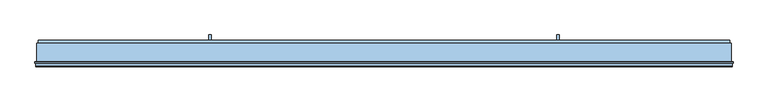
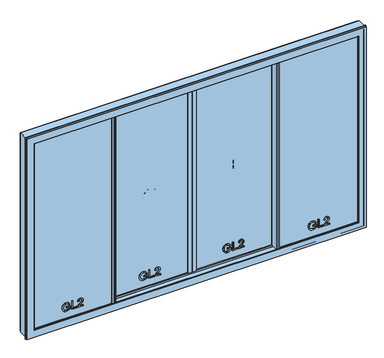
"""IFC4 building model written with IfcOpenShell, lengths in millimetres: window geometry, XL_XHS-9E_Metaglas : XL_XHS-9E_Metaglas."""

from ifc_helpers import new_model, si_unit, point, frame, frame_2d, origin, place, context, project, spatial, polyline, circle_curve, trimmed, segment, composite_curve, outline, extrude, faceted_brep, source, transform, mapped, element, save


def window_d65d8cc0(model_context):
    return source(origin(), model_context, "Body", "SolidModel", [
        extrude(outline(polyline([(979.25, -2.0486721), (1916.0, -2.0486721), (1916.0, -5.0486721), (979.25, -5.0486721), (979.25, -2.0486721)])), frame((0.0, 0.0, 85.6), z_axis=(0.0, 0.0, 1.0), x_axis=(1.0, 0.0, 0.0)), (0.0, 0.0, 1.0), 2330.4),
        extrude(outline(polyline([(979.25, 0.9513279), (1916.0, 0.9513279), (1916.0, -2.0486721), (979.25, -2.0486721), (979.25, 0.9513279)])), frame((0.0, 0.0, 85.6), z_axis=(0.0, 0.0, 1.0), x_axis=(1.0, 0.0, 0.0)), (0.0, 0.0, 1.0), 2330.4),
        extrude(outline(polyline([(979.25, -25.0486721), (1916.0, -25.0486721), (1916.0, -28.0486721), (979.25, -28.0486721), (979.25, -25.0486721)])), frame((0.0, 0.0, 85.6), z_axis=(0.0, 0.0, 1.0), x_axis=(1.0, 0.0, 0.0)), (0.0, 0.0, 1.0), 2330.4),
        extrude(outline(polyline([(979.25, -22.0486721), (1916.0, -22.0486721), (1916.0, -25.0486721), (979.25, -25.0486721), (979.25, -22.0486721)])), frame((0.0, 0.0, 85.6), z_axis=(0.0, 0.0, 1.0), x_axis=(1.0, 0.0, 0.0)), (0.0, 0.0, 1.0), 2330.4),
        extrude(outline(polyline([(224.3483029, 1374.6372122), (224.3483029, 1402.8905494), (206.1994578, 1402.8905494), (199.3200645, 1390.1740951), (196.0949657, 1372.9940059), (200.3746595, 1353.8518794), (213.4712586, 1340.1176183), (235.3602373, 1335.396466), (255.0787122, 1339.3205406), (264.7540087, 1345.783001), (271.8663939, 1356.721359), (274.576458, 1372.7978022), (272.0625977, 1386.9122081), (265.3671454, 1396.6978691), (253.754337, 1402.4245655), (257.0162241, 1414.0005856), (273.6322275, 1406.4099538), (283.5650414, 1392.6389045), (287.1334967, 1372.9940059), (285.5945237, 1358.9041255), (280.9776047, 1346.5555532), (273.1938348, 1336.4173385), (262.1543093, 1328.9585311), (248.9933309, 1324.3692032), (234.8452025, 1322.8394272), (220.7982416, 1324.3753346), (208.1369696, 1328.9830566), (197.5818221, 1336.6043452), (189.8532345, 1347.1809526), (185.1167538, 1359.9127353), (183.5379269, 1373.99955), (187.5110524, 1395.2999176), (199.3568527, 1415.4475882), (236.9053417, 1415.4475882), (236.9053417, 1374.6372122), (224.3483029, 1374.6372122)])), frame((0.0, -38.0486721, 0.0), z_axis=(0.0, 1.0, 0.0), x_axis=(0.0, 0.0, 1.0)), (0.0, 0.0, 1.0), 10.0),
        extrude(outline(polyline([(185.1075567, 1435.8527762), (185.1075567, 1498.63797), (197.6645955, 1498.63797), (197.6645955, 1448.4098149), (285.5638669, 1448.4098149), (285.5638669, 1435.8527762), (185.1075567, 1435.8527762)])), frame((0.0, -38.0486721, 0.0), z_axis=(0.0, 1.0, 0.0), x_axis=(0.0, 0.0, 1.0)), (0.0, 0.0, 1.0), 10.0),
        extrude(outline(polyline([(197.6645955, 1572.4105728), (197.6645955, 1523.0898599), (204.0534795, 1528.7552427), (216.1322717, 1543.2007423), (233.3368863, 1561.1901719), (245.6486704, 1568.6091255), (257.5557843, 1570.8409429), (268.506405, 1568.7716067), (277.5195139, 1562.563598), (283.5527787, 1552.8055281), (285.5638669, 1540.0860081), (283.7551137, 1527.4584586), (278.3288543, 1517.6819946), (269.4567669, 1511.0999726), (257.3105297, 1508.0557491), (255.7408998, 1520.6127878), (268.4205659, 1525.8980258), (273.0068281, 1539.816228), (268.3102013, 1553.1703444), (256.7954949, 1558.2839041), (242.5707244, 1552.8760388), (221.6505016, 1531.2077893), (207.0946373, 1515.4747026), (193.7650464, 1507.8350199), (185.1075567, 1506.4861192), (185.1075567, 1572.4105728), (197.6645955, 1572.4105728)])), frame((0.0, -38.0486721, 0.0), z_axis=(0.0, 1.0, 0.0), x_axis=(0.0, 0.0, 1.0)), (0.0, 0.0, 1.0), 10.0),
        extrude(outline(polyline([(2416.0, 1916.0), (2416.0, 979.25), (85.6, 979.25), (85.6, 1916.0), (2416.0, 1916.0)]), holes=[polyline([(98.6, 1903.0), (98.6, 992.25), (2403.0, 992.25), (2403.0, 1903.0), (98.6, 1903.0)])]), frame((0.0, -22.0486721, 0.0), z_axis=(0.0, 1.0, 0.0), x_axis=(0.0, 0.0, 1.0)), (0.0, 0.0, 1.0), 17.0),
        extrude(outline(polyline([(979.25, -22.0486721), (1916.0, -22.0486721), (1916.0, -28.0486721), (979.25, -28.0486721), (979.25, -22.0486721)])), frame((0.0, 0.0, 85.6), z_axis=(0.0, 0.0, 1.0), x_axis=(1.0, 0.0, 0.0)), (0.0, 0.0, 1.0), 2330.4),
        extrude(outline(polyline([(30.25, 82.8), (953.75, 82.8), (953.75, 79.8), (30.25, 79.8), (30.25, 82.8)])), frame((0.0, 0.0, 85.6), z_axis=(0.0, 0.0, 1.0), x_axis=(1.0, 0.0, 0.0)), (0.0, 0.0, 1.0), 2330.4),
        extrude(outline(polyline([(30.25, 85.8), (953.75, 85.8), (953.75, 82.8), (30.25, 82.8), (30.25, 85.8)])), frame((0.0, 0.0, 85.6), z_axis=(0.0, 0.0, 1.0), x_axis=(1.0, 0.0, 0.0)), (0.0, 0.0, 1.0), 2330.4),
        extrude(outline(polyline([(30.25, 59.8), (953.75, 59.8), (953.75, 56.8), (30.25, 56.8), (30.25, 59.8)])), frame((0.0, 0.0, 85.6), z_axis=(0.0, 0.0, 1.0), x_axis=(1.0, 0.0, 0.0)), (0.0, 0.0, 1.0), 2330.4),
        extrude(outline(polyline([(30.25, 62.8), (953.75, 62.8), (953.75, 59.8), (30.25, 59.8), (30.25, 62.8)])), frame((0.0, 0.0, 85.6), z_axis=(0.0, 0.0, 1.0), x_axis=(1.0, 0.0, 0.0)), (0.0, 0.0, 1.0), 2330.4),
        extrude(outline(polyline([(224.3483029, 419.0122122), (224.3483029, 447.2655494), (206.1994578, 447.2655494), (199.3200645, 434.5490951), (196.0949657, 417.3690059), (200.3746595, 398.2268794), (213.4712586, 384.4926183), (235.3602373, 379.771466), (255.0787122, 383.6955406), (264.7540087, 390.158001), (271.8663939, 401.096359), (274.576458, 417.1728022), (272.0625977, 431.2872081), (265.3671454, 441.0728691), (253.754337, 446.7995655), (257.0162241, 458.3755856), (273.6322275, 450.7849538), (283.5650414, 437.0139045), (287.1334967, 417.3690059), (285.5945237, 403.2791255), (280.9776047, 390.9305532), (273.1938348, 380.7923385), (262.1543093, 373.3335311), (248.9933309, 368.7442032), (234.8452025, 367.2144272), (220.7982416, 368.7503346), (208.1369696, 373.3580566), (197.5818221, 380.9793452), (189.8532345, 391.5559526), (185.1167538, 404.2877353), (183.5379269, 418.37455), (187.5110524, 439.6749176), (199.3568527, 459.8225882), (236.9053417, 459.8225882), (236.9053417, 419.0122122), (224.3483029, 419.0122122)])), frame((0.0, 46.8, 0.0), z_axis=(0.0, 1.0, 0.0), x_axis=(0.0, 0.0, 1.0)), (0.0, 0.0, 1.0), 10.0),
        extrude(outline(polyline([(185.1075567, 480.2277762), (185.1075567, 543.01297), (197.6645955, 543.01297), (197.6645955, 492.7848149), (285.5638669, 492.7848149), (285.5638669, 480.2277762), (185.1075567, 480.2277762)])), frame((0.0, 46.8, 0.0), z_axis=(0.0, 1.0, 0.0), x_axis=(0.0, 0.0, 1.0)), (0.0, 0.0, 1.0), 10.0),
        extrude(outline(polyline([(197.6645955, 616.7855728), (197.6645955, 567.4648599), (204.0534795, 573.1302427), (216.1322717, 587.5757423), (233.3368863, 605.5651719), (245.6486704, 612.9841255), (257.5557843, 615.2159429), (268.506405, 613.1466067), (277.5195139, 606.938598), (283.5527787, 597.1805281), (285.5638669, 584.4610081), (283.7551137, 571.8334586), (278.3288543, 562.0569946), (269.4567669, 555.4749726), (257.3105297, 552.4307491), (255.7408998, 564.9877878), (268.4205659, 570.2730258), (273.0068281, 584.191228), (268.3102013, 597.5453444), (256.7954949, 602.6589041), (242.5707244, 597.2510388), (221.6505016, 575.5827893), (207.0946373, 559.8497026), (193.7650464, 552.2100199), (185.1075567, 550.8611192), (185.1075567, 616.7855728), (197.6645955, 616.7855728)])), frame((0.0, 46.8, 0.0), z_axis=(0.0, 1.0, 0.0), x_axis=(0.0, 0.0, 1.0)), (0.0, 0.0, 1.0), 10.0),
        extrude(outline(polyline([(2416.0, 953.75), (2416.0, 30.25), (85.6, 30.25), (85.6, 953.75), (2416.0, 953.75)]), holes=[polyline([(98.6, 940.75), (98.6, 43.25), (2403.0, 43.25), (2403.0, 940.75), (98.6, 940.75)])]), frame((0.0, 62.8, 0.0), z_axis=(0.0, 1.0, 0.0), x_axis=(0.0, 0.0, 1.0)), (0.0, 0.0, 1.0), 17.0),
        extrude(outline(polyline([(30.25, 62.8), (953.75, 62.8), (953.75, 56.8), (30.25, 56.8), (30.25, 62.8)])), frame((0.0, 0.0, 85.6), z_axis=(0.0, 0.0, 1.0), x_axis=(1.0, 0.0, 0.0)), (0.0, 0.0, 1.0), 2330.4),
        extrude(outline(composite_curve([segment(trimmed(circle_curve(frame_2d((27.9933183, 1063.3761618)), 10.0), [point((17.9933183, 1063.3761618))], [point((37.9933183, 1063.3761618))], False, "CARTESIAN"), True, "CONTINUOUS"), segment(trimmed(circle_curve(frame_2d((27.9933183, 1063.3761618)), 10.0), [point((37.9933183, 1063.3761618))], [point((17.9933183, 1063.3761618))], False, "CARTESIAN"), True, "CONTINUOUS")], self_intersect=False)), frame((1004.5, 0.0, 0.0), z_axis=(1.0, 0.0, 0.0), x_axis=(0.0, 1.0, 0.0)), (0.0, 0.0, 1.0), 33.0),
        extrude(outline(polyline([(1004.5, 53.9933183), (1004.5, 67.9933183), (1017.5, 67.9933183), (1017.5, 53.9933183), (1004.5, 53.9933183)])), frame((0.0, 0.0, 1080.3761618), z_axis=(0.0, 0.0, 1.0), x_axis=(1.0, 0.0, 0.0)), (0.0, 0.0, 1.0), 65.0),
        extrude(outline(polyline([(1004.5, 132.9933183), (1004.5, 15.9933183), (990.5, 15.9933183), (990.5, 132.9933183), (1004.5, 132.9933183)])), frame((0.0, 0.0, 1037.8761618), z_axis=(0.0, 0.0, 1.0), x_axis=(1.0, 0.0, 0.0)), (0.0, 0.0, 1.0), 127.0),
        extrude(outline(polyline([(1310.8, 1427.625), (1270.8, 1427.625), (1270.8, 1387.625), (1230.8, 1387.625), (1230.8, 1427.625), (1190.8, 1427.625), (1190.8, 1467.625), (1230.8, 1467.625), (1230.8, 1507.625), (1270.8, 1507.625), (1270.8, 1467.625), (1310.8, 1467.625), (1310.8, 1427.625)])), frame((0.0, -21.2986721, 0.0), z_axis=(0.0, 1.0, 0.0), x_axis=(0.0, 0.0, 1.0)), (0.0, 0.0, 1.0), 10.0),
        extrude(outline(polyline([(1263.3, 429.7), (1238.3, 429.7), (1238.3, 492.0), (1201.4, 492.0), (1250.8, 554.3), (1300.2, 492.0), (1263.3, 492.0), (1263.3, 429.7)])), frame((0.0, 58.3, 0.0), z_axis=(0.0, 1.0, 0.0), x_axis=(0.0, 0.0, 1.0)), (0.0, 0.0, 1.0), 10.0),
        extrude(outline(composite_curve([segment(trimmed(circle_curve(frame_2d((27.9822502, 1063.3761618)), 10.0), [point((17.9822502, 1063.3761618))], [point((37.9822502, 1063.3761618))], False, "CARTESIAN"), True, "CONTINUOUS"), segment(trimmed(circle_curve(frame_2d((27.9822502, 1063.3761618)), 10.0), [point((37.9822502, 1063.3761618))], [point((17.9822502, 1063.3761618))], False, "CARTESIAN"), True, "CONTINUOUS")], self_intersect=False)), frame((-1037.5, 0.0, 0.0), z_axis=(1.0, 0.0, 0.0), x_axis=(0.0, 1.0, 0.0)), (0.0, 0.0, 1.0), 33.0),
        extrude(outline(polyline([(-1004.5, 67.9822502), (-1004.5, 53.9822502), (-1017.5, 53.9822502), (-1017.5, 67.9822502), (-1004.5, 67.9822502)])), frame((0.0, 0.0, 1080.3761618), z_axis=(0.0, 0.0, 1.0), x_axis=(1.0, 0.0, 0.0)), (0.0, 0.0, 1.0), 65.0),
        extrude(outline(polyline([(-990.5, 132.9822502), (-990.5, 15.9822502), (-1004.5, 15.9822502), (-1004.5, 132.9822502), (-990.5, 132.9822502)])), frame((0.0, 0.0, 1037.8761618), z_axis=(0.0, 0.0, 1.0), x_axis=(1.0, 0.0, 0.0)), (0.0, 0.0, 1.0), 127.0),
        extrude(outline(polyline([(-953.75, 82.8), (-30.25, 82.8), (-30.25, 79.8), (-953.75, 79.8), (-953.75, 82.8)])), frame((0.0, 0.0, 85.6), z_axis=(0.0, 0.0, 1.0), x_axis=(1.0, 0.0, 0.0)), (0.0, 0.0, 1.0), 2330.4),
        extrude(outline(polyline([(-953.75, 85.8), (-30.25, 85.8), (-30.25, 82.8), (-953.75, 82.8), (-953.75, 85.8)])), frame((0.0, 0.0, 85.6), z_axis=(0.0, 0.0, 1.0), x_axis=(1.0, 0.0, 0.0)), (0.0, 0.0, 1.0), 2330.4),
        extrude(outline(polyline([(-953.75, 59.8), (-30.25, 59.8), (-30.25, 56.8), (-953.75, 56.8), (-953.75, 59.8)])), frame((0.0, 0.0, 85.6), z_axis=(0.0, 0.0, 1.0), x_axis=(1.0, 0.0, 0.0)), (0.0, 0.0, 1.0), 2330.4),
        extrude(outline(polyline([(-953.75, 62.8), (-30.25, 62.8), (-30.25, 59.8), (-953.75, 59.8), (-953.75, 62.8)])), frame((0.0, 0.0, 85.6), z_axis=(0.0, 0.0, 1.0), x_axis=(1.0, 0.0, 0.0)), (0.0, 0.0, 1.0), 2330.4),
        extrude(outline(polyline([(224.3483029, -564.9877878), (224.3483029, -536.7344506), (206.1994578, -536.7344506), (199.3200645, -549.4509049), (196.0949657, -566.6309941), (200.3746595, -585.7731206), (213.4712586, -599.5073817), (235.3602373, -604.228534), (255.0787122, -600.3044594), (264.7540087, -593.841999), (271.8663939, -582.903641), (274.576458, -566.8271978), (272.0625977, -552.7127919), (265.3671454, -542.9271309), (253.754337, -537.2004345), (257.0162241, -525.6244144), (273.6322275, -533.2150462), (283.5650414, -546.9860955), (287.1334967, -566.6309941), (285.5945237, -580.7208745), (280.9776047, -593.0694468), (273.1938348, -603.2076615), (262.1543093, -610.6664689), (248.9933309, -615.2557968), (234.8452025, -616.7855728), (220.7982416, -615.2496654), (208.1369696, -610.6419434), (197.5818221, -603.0206548), (189.8532345, -592.4440474), (185.1167538, -579.7122647), (183.5379269, -565.62545), (187.5110524, -544.3250824), (199.3568527, -524.1774118), (236.9053417, -524.1774118), (236.9053417, -564.9877878), (224.3483029, -564.9877878)])), frame((0.0, 46.8, 0.0), z_axis=(0.0, 1.0, 0.0), x_axis=(0.0, 0.0, 1.0)), (0.0, 0.0, 1.0), 10.0),
        extrude(outline(polyline([(185.1075567, -503.7722238), (185.1075567, -440.98703), (197.6645955, -440.98703), (197.6645955, -491.2151851), (285.5638669, -491.2151851), (285.5638669, -503.7722238), (185.1075567, -503.7722238)])), frame((0.0, 46.8, 0.0), z_axis=(0.0, 1.0, 0.0), x_axis=(0.0, 0.0, 1.0)), (0.0, 0.0, 1.0), 10.0),
        extrude(outline(polyline([(197.6645955, -367.2144272), (197.6645955, -416.5351401), (204.0534795, -410.8697573), (216.1322717, -396.4242577), (233.3368863, -378.4348281), (245.6486704, -371.0158745), (257.5557843, -368.7840571), (268.506405, -370.8533933), (277.5195139, -377.061402), (283.5527787, -386.8194719), (285.5638669, -399.5389919), (283.7551137, -412.1665414), (278.3288543, -421.9430054), (269.4567669, -428.5250274), (257.3105297, -431.5692509), (255.7408998, -419.0122122), (268.4205659, -413.7269742), (273.0068281, -399.808772), (268.3102013, -386.4546556), (256.7954949, -381.3410959), (242.5707244, -386.7489612), (221.6505016, -408.4172107), (207.0946373, -424.1502974), (193.7650464, -431.7899801), (185.1075567, -433.1388808), (185.1075567, -367.2144272), (197.6645955, -367.2144272)])), frame((0.0, 46.8, 0.0), z_axis=(0.0, 1.0, 0.0), x_axis=(0.0, 0.0, 1.0)), (0.0, 0.0, 1.0), 10.0),
        extrude(outline(polyline([(2416.0, -30.25), (2416.0, -953.75), (85.6, -953.75), (85.6, -30.25), (2416.0, -30.25)]), holes=[polyline([(98.6, -43.25), (98.6, -940.75), (2403.0, -940.75), (2403.0, -43.25), (98.6, -43.25)])]), frame((0.0, 62.8, 0.0), z_axis=(0.0, 1.0, 0.0), x_axis=(0.0, 0.0, 1.0)), (0.0, 0.0, 1.0), 17.0),
        extrude(outline(polyline([(-953.75, 62.8), (-30.25, 62.8), (-30.25, 56.8), (-953.75, 56.8), (-953.75, 62.8)])), frame((0.0, 0.0, 85.6), z_axis=(0.0, 0.0, 1.0), x_axis=(1.0, 0.0, 0.0)), (0.0, 0.0, 1.0), 2330.4),
        extrude(outline(polyline([(-1916.0, -2.0486721), (-979.25, -2.0486721), (-979.25, -5.0486721), (-1916.0, -5.0486721), (-1916.0, -2.0486721)])), frame((0.0, 0.0, 85.6), z_axis=(0.0, 0.0, 1.0), x_axis=(1.0, 0.0, 0.0)), (0.0, 0.0, 1.0), 2330.4),
        extrude(outline(polyline([(-1916.0, 0.9513279), (-979.25, 0.9513279), (-979.25, -2.0486721), (-1916.0, -2.0486721), (-1916.0, 0.9513279)])), frame((0.0, 0.0, 85.6), z_axis=(0.0, 0.0, 1.0), x_axis=(1.0, 0.0, 0.0)), (0.0, 0.0, 1.0), 2330.4),
        extrude(outline(polyline([(-1916.0, -25.0486721), (-979.25, -25.0486721), (-979.25, -28.0486721), (-1916.0, -28.0486721), (-1916.0, -25.0486721)])), frame((0.0, 0.0, 85.6), z_axis=(0.0, 0.0, 1.0), x_axis=(1.0, 0.0, 0.0)), (0.0, 0.0, 1.0), 2330.4),
        extrude(outline(polyline([(-1916.0, -22.0486721), (-979.25, -22.0486721), (-979.25, -25.0486721), (-1916.0, -25.0486721), (-1916.0, -22.0486721)])), frame((0.0, 0.0, 85.6), z_axis=(0.0, 0.0, 1.0), x_axis=(1.0, 0.0, 0.0)), (0.0, 0.0, 1.0), 2330.4),
        extrude(outline(polyline([(224.3483029, -1520.6127878), (224.3483029, -1492.3594506), (206.1994578, -1492.3594506), (199.3200645, -1505.0759049), (196.0949657, -1522.2559941), (200.3746595, -1541.3981206), (213.4712586, -1555.1323817), (235.3602373, -1559.853534), (255.0787122, -1555.9294594), (264.7540087, -1549.466999), (271.8663939, -1538.528641), (274.576458, -1522.4521978), (272.0625977, -1508.3377919), (265.3671454, -1498.5521309), (253.754337, -1492.8254345), (257.0162241, -1481.2494144), (273.6322275, -1488.8400462), (283.5650414, -1502.6110955), (287.1334967, -1522.2559941), (285.5945237, -1536.3458745), (280.9776047, -1548.6944468), (273.1938348, -1558.8326615), (262.1543093, -1566.2914689), (248.9933309, -1570.8807968), (234.8452025, -1572.4105728), (220.7982416, -1570.8746654), (208.1369696, -1566.2669434), (197.5818221, -1558.6456548), (189.8532345, -1548.0690474), (185.1167538, -1535.3372647), (183.5379269, -1521.25045), (187.5110524, -1499.9500824), (199.3568527, -1479.8024118), (236.9053417, -1479.8024118), (236.9053417, -1520.6127878), (224.3483029, -1520.6127878)])), frame((0.0, -38.0486721, 0.0), z_axis=(0.0, 1.0, 0.0), x_axis=(0.0, 0.0, 1.0)), (0.0, 0.0, 1.0), 10.0),
        extrude(outline(polyline([(185.1075567, -1459.3972238), (185.1075567, -1396.61203), (197.6645955, -1396.61203), (197.6645955, -1446.8401851), (285.5638669, -1446.8401851), (285.5638669, -1459.3972238), (185.1075567, -1459.3972238)])), frame((0.0, -38.0486721, 0.0), z_axis=(0.0, 1.0, 0.0), x_axis=(0.0, 0.0, 1.0)), (0.0, 0.0, 1.0), 10.0),
        extrude(outline(polyline([(197.6645955, -1322.8394272), (197.6645955, -1372.1601401), (204.0534795, -1366.4947573), (216.1322717, -1352.0492577), (233.3368863, -1334.0598281), (245.6486704, -1326.6408745), (257.5557843, -1324.4090571), (268.506405, -1326.4783933), (277.5195139, -1332.686402), (283.5527787, -1342.4444719), (285.5638669, -1355.1639919), (283.7551137, -1367.7915414), (278.3288543, -1377.5680054), (269.4567669, -1384.1500274), (257.3105297, -1387.1942509), (255.7408998, -1374.6372122), (268.4205659, -1369.3519742), (273.0068281, -1355.433772), (268.3102013, -1342.0796556), (256.7954949, -1336.9660959), (242.5707244, -1342.3739612), (221.6505016, -1364.0422107), (207.0946373, -1379.7752974), (193.7650464, -1387.4149801), (185.1075567, -1388.7638808), (185.1075567, -1322.8394272), (197.6645955, -1322.8394272)])), frame((0.0, -38.0486721, 0.0), z_axis=(0.0, 1.0, 0.0), x_axis=(0.0, 0.0, 1.0)), (0.0, 0.0, 1.0), 10.0),
        extrude(outline(polyline([(2416.0, -979.25), (2416.0, -1916.0), (85.6, -1916.0), (85.6, -979.25), (2416.0, -979.25)]), holes=[polyline([(98.6, -992.25), (98.6, -1903.0), (2403.0, -1903.0), (2403.0, -992.25), (98.6, -992.25)])]), frame((0.0, -22.0486721, 0.0), z_axis=(0.0, 1.0, 0.0), x_axis=(0.0, 0.0, 1.0)), (0.0, 0.0, 1.0), 17.0),
        extrude(outline(polyline([(-1916.0, -22.0486721), (-979.25, -22.0486721), (-979.25, -28.0486721), (-1916.0, -28.0486721), (-1916.0, -22.0486721)])), frame((0.0, 0.0, 85.6), z_axis=(0.0, 0.0, 1.0), x_axis=(1.0, 0.0, 0.0)), (0.0, 0.0, 1.0), 2330.4),
        extrude(outline(polyline([(1263.3, -429.7), (1263.3, -492.0), (1300.2, -492.0), (1250.8, -554.3), (1201.4, -492.0), (1238.3, -492.0), (1238.3, -429.7), (1263.3, -429.7)])), frame((0.0, 58.3, 0.0), z_axis=(0.0, 1.0, 0.0), x_axis=(0.0, 0.0, 1.0)), (0.0, 0.0, 1.0), 10.0),
        extrude(outline(polyline([(1310.8, -1467.625), (1270.8, -1467.625), (1270.8, -1507.625), (1230.8, -1507.625), (1230.8, -1467.625), (1190.8, -1467.625), (1190.8, -1427.625), (1230.8, -1427.625), (1230.8, -1387.625), (1270.8, -1387.625), (1270.8, -1427.625), (1310.8, -1427.625), (1310.8, -1467.625)])), frame((0.0, -21.2986721, 0.0), z_axis=(0.0, 1.0, 0.0), x_axis=(0.0, 0.0, 1.0)), (0.0, 0.0, 1.0), 10.0),
        faceted_brep([(1921.3999235, -39.4974407, 2421.3999235), (1921.3999235, -41.2974407, 2421.3999235), (1921.3999235, -41.2974407, 78.6000765), (1921.3999235, -39.4974407, 78.6000765), (1936.8499257, -41.2974407, 63.1500743), (-1936.8499257, -41.2974407, 63.1500743), (-1936.8499257, -41.2974407, 2436.8499257), (1936.8499257, -41.2974407, 2436.8499257), (-1921.3999235, -41.2974407, 2421.3999235), (-1921.3999235, -41.2974407, 78.6000765), (-1921.3999235, -39.4974407, 78.6000765), (-1921.3999235, -39.4974407, 2421.3999235), (1907.2000109, -39.4974407, 2407.2000109), (-1907.2000109, -39.4974407, 2407.2000109), (-1907.2000109, -39.4974407, 92.7999891), (1907.2000109, -39.4974407, 92.7999891), (1936.8499257, -39.4974407, 2436.8499257), (1936.8499257, -39.4974407, 63.1500743), (1954.9499135, -39.4974407, 45.0500865), (-1954.9499135, -39.4974407, 45.0500865), (-1954.9499135, -39.4974407, 2454.9499135), (1954.9499135, -39.4974407, 2454.9499135), (-1936.8499257, -39.4974407, 2436.8499257), (-1936.8499257, -39.4974407, 63.1500743), (1954.9499135, -43.2972427, 2454.9499135), (1954.9499135, -43.2972427, 45.0500865), (1967.6999683, -43.2972427, 32.3000317), (-1967.6999683, -43.2972427, 32.3000317), (-1967.6999683, -43.2972427, 2467.6999683), (1967.6999683, -43.2972427, 2467.6999683), (-1954.9499135, -43.2972427, 2454.9499135), (-1954.9499135, -43.2972427, 45.0500865), (1969.8212887, -42.4187944, 2469.8212887), (1969.8212887, -42.4187944, 30.1787113), (1970.6999683, -40.297474, 2470.6999683), (1970.6999683, -40.297474, 29.3000317), (-1969.8212887, -42.4187944, 30.1787113), (1970.6999683, 13.8542105, 2470.6999683), (1970.6999683, 13.8542105, 29.3000317), (-1970.6999683, -40.297474, 29.3000317), (1969.2355022, 17.3897444, 2469.2355022), (1969.2355022, 17.3897444, 30.7644978), (-1970.6999683, 13.8542105, 29.3000317), (1965.6999683, 18.8542105, 2465.6999683), (1965.6999683, 18.8542105, 34.3000317), (-1969.2355022, 17.3897444, 30.7644978), (-1965.6999683, 18.8542105, 2465.6999683), (-1965.6999683, 18.8542105, 34.3000317), (1949.0999628, 18.8542105, 50.9000372), (-1949.0999628, 18.8542105, 50.9000372), (-1949.0999628, 18.8542105, 2449.0999628), (1949.0999628, 18.8542105, 2449.0999628), (1949.0999628, 17.0041087, 2449.0999628), (1949.0999628, 17.0041087, 50.9000372), (-1949.0999628, 17.0041087, 2449.0999628), (-1949.0999628, 17.0041087, 50.9000372), (1941.1999683, 17.0041087, 58.8000317), (-1941.1999683, 17.0041087, 58.8000317), (-1941.1999683, 17.0041087, 2441.1999683), (1941.1999683, 17.0041087, 2441.1999683), (1941.1999683, 18.8542105, 2441.1999683), (1941.1999683, 18.8542105, 58.8000317), (-1941.1999683, 18.8542105, 2441.1999683), (-1941.1999683, 18.8542105, 58.8000317), (1928.7000102, 18.8542105, 71.2999898), (-1928.7000102, 18.8542105, 71.2999898), (-1928.7000102, 18.8542105, 2428.7000102), (1928.7000102, 18.8542105, 2428.7000102), (1928.7000102, 17.00255, 2428.7000102), (1928.7000102, 17.00255, 71.2999898), (-1928.7000102, 17.00255, 2428.7000102), (-1928.7000102, 17.00255, 71.2999898), (1907.2000101, 17.00255, 92.7999899), (-1907.2000101, 17.00255, 92.7999899), (-1907.2000101, 17.00255, 2407.2000101), (1907.2000101, 17.00255, 2407.2000101), (1907.2000101, 40.3025501, 2407.2000101), (1907.2000101, 40.3025501, 92.7999899), (1928.7000102, 40.3025501, 71.2999898), (-1928.7000102, 40.3025501, 71.2999898), (-1928.7000102, 40.3025501, 2428.7000102), (1928.7000102, 40.3025501, 2428.7000102), (-1907.2000101, 40.3025501, 2407.2000101), (-1907.2000101, 40.3025501, 92.7999899), (1928.7000102, 38.3025501, 2428.7000102), (1928.7000102, 38.3025501, 71.2999898), (1941.2219878, 38.3025501, 58.7780122), (-1941.2219878, 38.3025501, 58.7780122), (-1941.2219878, 38.3025501, 2441.2219878), (1941.2219878, 38.3025501, 2441.2219878), (-1928.7000102, 38.3025501, 2428.7000102), (-1928.7000102, 38.3025501, 71.2999898), (1941.2219878, 40.1009632, 2441.2219878), (1941.2219878, 40.1009632, 58.7780122), (1949.1219823, 40.1009632, 50.8780177), (-1949.1219823, 40.1009632, 50.8780177), (-1949.1219823, 40.1009632, 2449.1219823), (1949.1219823, 40.1009632, 2449.1219823), (-1941.2219878, 40.1009632, 2441.2219878), (-1941.2219878, 40.1009632, 58.7780122), (1949.1219823, 38.2508609, 2449.1219823), (1949.1219823, 38.2508609, 50.8780177), (1965.7226763, 38.2508609, 34.2773237), (-1965.7226763, 38.2508609, 34.2773237), (-1965.7226763, 38.2508609, 2465.7226763), (1965.7226763, 38.2508609, 2465.7226763), (-1949.1219823, 38.2508609, 2449.1219823), (-1949.1219823, 38.2508609, 50.8780177), (1969.2582102, 39.715327, 2469.2582102), (1969.2582102, 39.715327, 30.7417898), (1970.7226763, 43.2508609, 2470.7226763), (1970.7226763, 43.2508609, 29.2773237), (-1969.2582102, 39.715327, 30.7417898), (1970.7226763, 97.4025672, 2470.7226763), (1970.7226763, 97.4025672, 29.2773237), (-1970.7226763, 43.2508609, 29.2773237), (1969.8439966, 99.5238875, 2469.8439966), (1969.8439966, 99.5238875, 30.1560034), (-1970.7226763, 97.4025672, 29.2773237), (1967.7226763, 100.4025672, 2467.7226763), (1967.7226763, 100.4025672, 32.2773237), (-1969.8439966, 99.5238875, 30.1560034), (-1967.7226763, 100.4025672, 2467.7226763), (-1967.7226763, 100.4025672, 32.2773237), (1937.7723175, 100.4025672, 62.2276825), (-1937.7723175, 100.4025672, 62.2276825), (-1937.7723175, 100.4025672, 2437.7723175), (1937.7723175, 100.4025672, 2437.7723175), (1937.7723175, 96.6025324, 2437.7723175), (1937.7723175, 96.6025324, 62.2276825), (-1937.7723175, 96.6025324, 2437.7723175), (-1937.7723175, 96.6025324, 62.2276825), (1907.222332, 96.6025324, 92.777668), (-1907.222332, 96.6025324, 92.777668), (-1907.222332, 96.6025324, 2407.222332), (1907.222332, 96.6025324, 2407.222332), (1907.222332, 100.4025324, 2407.222332), (1907.222332, 100.4025324, 92.777668), (1908.0971217, 102.5199556, 2408.0971217), (1908.0971217, 102.5199556, 91.9028783), (-1907.222332, 100.4025324, 92.777668), (1910.2113195, 103.4025122, 2410.2113195), (1910.2113195, 103.4025122, 89.7886805), (-1908.0971217, 102.5199556, 91.9028783), (1981.7280274, 103.4025122, 18.2719726), (-1981.7280274, 103.4025122, 18.2719726), (-1981.7280274, 103.4025122, 2481.7280274), (1981.7280274, 103.4025122, 2481.7280274), (-1910.2113195, 103.4025122, 2410.2113195), (-1910.2113195, 103.4025122, 89.7886805), (1981.7280274, 45.7517947, 2481.7280274), (1981.7280274, 45.7517947, 18.2719726), (1985.0219895, 45.7517947, 14.9780105), (-1985.0219895, 45.7517947, 14.9780105), (-1985.0219895, 45.7517947, 2485.0219895), (1985.0219895, 45.7517947, 2485.0219895), (-1981.7280274, 45.7517947, 2481.7280274), (-1981.7280274, 45.7517947, 18.2719726), (1985.0219895, 38.8926376, 2485.0219895), (1985.0219895, 38.8926376, 14.9780105), (1981.7280274, 39.4549169, 2481.7280274), (1981.7280274, 39.4549169, 18.2719726), (-1985.0219895, 38.8926376, 14.9780105), (1981.7280274, 17.6566355, 2481.7280274), (1981.7280274, 17.6566355, 18.2719726), (-1981.7280274, 39.4549169, 18.2719726), (1984.9999912, 18.2124345, 2484.9999912), (1984.9999912, 18.2124345, 15.0000088), (-1981.7280274, 17.6566355, 18.2719726), (1907.2000109, -45.7974407, 2407.2000109), (1907.2000109, -45.7974407, 92.7999891), (-1907.2000109, -45.7974407, 92.7999891), (1907.9102446, -47.7357312, 2407.9102446), (1907.9102446, -47.7357312, 92.0897554), (-1969.8212887, -42.4187944, 2469.8212887), (-1970.6999683, -40.297474, 2470.6999683), (-1970.6999683, 13.8542105, 2470.6999683), (-1969.2355022, 17.3897444, 2469.2355022), (-1969.2582102, 39.715327, 2469.2582102), (-1970.7226763, 43.2508609, 2470.7226763), (-1970.7226763, 97.4025672, 2470.7226763), (-1969.8439966, 99.5238875, 2469.8439966), (-1907.222332, 100.4025324, 2407.222332), (-1908.0971217, 102.5199556, 2408.0971217), (-1985.0219895, 38.8926376, 2485.0219895), (-1981.7280274, 39.4549169, 2481.7280274), (-1984.9999912, 18.2124345, 15.0000088), (-1981.7280274, 17.6566355, 2481.7280274), (-1907.2000109, -45.7974407, 2407.2000109), (-1907.9102446, -47.7357312, 92.0897554), (-1984.9999912, 18.2124345, 2484.9999912), (-1907.9102446, -47.7357312, 2407.9102446), (1984.9999912, 11.3532947, 2484.9999912), (1984.9999912, 11.3532947, 15.0000088), (-1984.9999912, 11.3532947, 2484.9999912), (-1984.9999912, 11.3532947, 15.0000088), (1981.6999683, 11.3532947, 18.3000317), (-1981.6999683, 11.3532947, 18.3000317), (-1981.6999683, 11.3532947, 2481.6999683), (1981.6999683, 11.3532947, 2481.6999683), (1981.6999683, -26.9457537, 2481.6999683), (1981.6999683, -26.9457537, 18.3000317), (1991.6999768, -26.9457537, 8.3000232), (-1991.6999768, -26.9457537, 8.3000232), (-1991.6999768, -26.9457537, 2491.6999768), (1991.6999768, -26.9457537, 2491.6999768), (-1981.6999683, -26.9457537, 2481.6999683), (-1981.6999683, -26.9457537, 18.3000317), (1991.6999768, -23.8957567, 2491.6999768), (1991.6999768, -23.8957567, 8.3000232), (2000.1999683, -23.8957567, -0.1999683), (-2000.1999683, -23.8957567, -0.1999683), (-2000.1999683, -23.8957567, 2500.1999683), (2000.1999683, -23.8957567, 2500.1999683), (-1991.6999768, -23.8957567, 2491.6999768), (-1991.6999768, -23.8957567, 8.3000232), (2000.1999683, -28.6974407, 2500.1999683), (2000.1999683, -28.6974407, -0.1999683), (-2000.1999683, -28.6974407, 2500.1999683), (-2000.1999683, -28.6974407, -0.1999683), (1994.7000109, -28.6974407, 5.2999891), (-1994.7000109, -28.6974407, 5.2999891), (-1994.7000109, -28.6974407, 2494.7000109), (1994.7000109, -28.6974407, 2494.7000109), (1994.7000109, -46.2957343, 2494.7000109), (1994.7000109, -46.2957343, 5.2999891), (1996.7000109, -46.2957343, 3.2999891), (-1996.7000109, -46.2957343, 3.2999891), (-1996.7000109, -46.2957343, 2496.7000109), (1996.7000109, -46.2957343, 2496.7000109), (-1994.7000109, -46.2957343, 2494.7000109), (-1994.7000109, -46.2957343, 5.2999891), (1996.7000109, -48.7974407, 2496.7000109), (1996.7000109, -48.7974407, 3.2999891), (-1996.7000109, -48.7974407, 2496.7000109), (-1996.7000109, -48.7974407, 3.2999891), (1910.2000109, -48.7974407, 89.7999891), (-1910.2000109, -48.7974407, 89.7999891), (-1910.2000109, -48.7974407, 2410.2000109), (1910.2000109, -48.7974407, 2410.2000109)], [[[0, 1, 2, 3]], [[4, 5, 6, 7], [1, 8, 9, 2]], [[3, 2, 9, 10]], [[3, 10, 11, 0], [12, 13, 14, 15]], [[7, 16, 17, 4]], [[18, 19, 20, 21], [16, 22, 23, 17]], [[4, 17, 23, 5]], [[21, 24, 25, 18]], [[26, 27, 28, 29], [24, 30, 31, 25]], [[18, 25, 31, 19]], [[29, 32, 33, 26]], [[32, 34, 35, 33]], [[26, 33, 36, 27]], [[34, 37, 38, 35]], [[33, 35, 39, 36]], [[37, 40, 41, 38]], [[35, 38, 42, 39]], [[40, 43, 44, 41]], [[38, 41, 45, 42]], [[43, 46, 47, 44], [48, 49, 50, 51]], [[41, 44, 47, 45]], [[51, 52, 53, 48]], [[52, 54, 55, 53], [56, 57, 58, 59]], [[48, 53, 55, 49]], [[59, 60, 61, 56]], [[60, 62, 63, 61], [64, 65, 66, 67]], [[56, 61, 63, 57]], [[67, 68, 69, 64]], [[68, 70, 71, 69], [72, 73, 74, 75]], [[64, 69, 71, 65]], [[75, 76, 77, 72]], [[78, 79, 80, 81], [76, 82, 83, 77]], [[72, 77, 83, 73]], [[81, 84, 85, 78]], [[86, 87, 88, 89], [84, 90, 91, 85]], [[78, 85, 91, 79]], [[89, 92, 93, 86]], [[94, 95, 96, 97], [92, 98, 99, 93]], [[86, 93, 99, 87]], [[97, 100, 101, 94]], [[102, 103, 104, 105], [100, 106, 107, 101]], [[94, 101, 107, 95]], [[105, 108, 109, 102]], [[108, 110, 111, 109]], [[102, 109, 112, 103]], [[110, 113, 114, 111]], [[109, 111, 115, 112]], [[113, 116, 117, 114]], [[111, 114, 118, 115]], [[116, 119, 120, 117]], [[114, 117, 121, 118]], [[119, 122, 123, 120], [124, 125, 126, 127]], [[117, 120, 123, 121]], [[127, 128, 129, 124]], [[128, 130, 131, 129], [132, 133, 134, 135]], [[124, 129, 131, 125]], [[135, 136, 137, 132]], [[136, 138, 139, 137]], [[132, 137, 140, 133]], [[138, 141, 142, 139]], [[137, 139, 143, 140]], [[144, 145, 146, 147], [141, 148, 149, 142]], [[139, 142, 149, 143]], [[147, 150, 151, 144]], [[152, 153, 154, 155], [150, 156, 157, 151]], [[144, 151, 157, 145]], [[155, 158, 159, 152]], [[158, 160, 161, 159]], [[152, 159, 162, 153]], [[160, 163, 164, 161]], [[159, 161, 165, 162]], [[163, 166, 167, 164]], [[161, 164, 168, 165]], [[169, 12, 15, 170]], [[170, 15, 14, 171]], [[172, 169, 170, 173]], [[10, 9, 8, 11]], [[5, 23, 22, 6]], [[19, 31, 30, 20]], [[27, 36, 174, 28]], [[36, 39, 175, 174]], [[39, 42, 176, 175]], [[42, 45, 177, 176]], [[45, 47, 46, 177]], [[49, 55, 54, 50]], [[57, 63, 62, 58]], [[65, 71, 70, 66]], [[73, 83, 82, 74]], [[79, 91, 90, 80]], [[87, 99, 98, 88]], [[95, 107, 106, 96]], [[103, 112, 178, 104]], [[112, 115, 179, 178]], [[115, 118, 180, 179]], [[118, 121, 181, 180]], [[121, 123, 122, 181]], [[125, 131, 130, 126]], [[133, 140, 182, 134]], [[140, 143, 183, 182]], [[143, 149, 148, 183]], [[145, 157, 156, 146]], [[153, 162, 184, 154]], [[162, 165, 185, 184]], [[164, 167, 186, 168]], [[165, 168, 187, 185]], [[171, 14, 13, 188]], [[173, 170, 171, 189]], [[168, 186, 190, 187]], [[189, 171, 188, 191]], [[166, 192, 193, 167]], [[192, 194, 195, 193], [196, 197, 198, 199]], [[167, 193, 195, 186]], [[199, 200, 201, 196]], [[202, 203, 204, 205], [200, 206, 207, 201]], [[196, 201, 207, 197]], [[205, 208, 209, 202]], [[210, 211, 212, 213], [208, 214, 215, 209]], [[202, 209, 215, 203]], [[213, 216, 217, 210]], [[216, 218, 219, 217], [220, 221, 222, 223]], [[210, 217, 219, 211]], [[223, 224, 225, 220]], [[226, 227, 228, 229], [224, 230, 231, 225]], [[220, 225, 231, 221]], [[229, 232, 233, 226]], [[232, 234, 235, 233], [236, 237, 238, 239]], [[226, 233, 235, 227]], [[186, 195, 194, 190]], [[197, 207, 206, 198]], [[203, 215, 214, 204]], [[211, 219, 218, 212]], [[221, 231, 230, 222]], [[227, 235, 234, 228]], [[239, 172, 173, 236]], [[236, 173, 189, 237]], [[237, 189, 191, 238]], [[11, 8, 1, 0]], [[6, 22, 16, 7]], [[20, 30, 24, 21]], [[28, 174, 32, 29]], [[174, 175, 34, 32]], [[175, 176, 37, 34]], [[176, 177, 40, 37]], [[177, 46, 43, 40]], [[50, 54, 52, 51]], [[58, 62, 60, 59]], [[66, 70, 68, 67]], [[74, 82, 76, 75]], [[80, 90, 84, 81]], [[88, 98, 92, 89]], [[96, 106, 100, 97]], [[104, 178, 108, 105]], [[178, 179, 110, 108]], [[179, 180, 113, 110]], [[180, 181, 116, 113]], [[181, 122, 119, 116]], [[126, 130, 128, 127]], [[134, 182, 136, 135]], [[182, 183, 138, 136]], [[183, 148, 141, 138]], [[146, 156, 150, 147]], [[154, 184, 158, 155]], [[184, 185, 160, 158]], [[185, 187, 163, 160]], [[188, 13, 12, 169]], [[187, 190, 166, 163]], [[190, 194, 192, 166]], [[198, 206, 200, 199]], [[204, 214, 208, 205]], [[212, 218, 216, 213]], [[222, 230, 224, 223]], [[228, 234, 232, 229]], [[191, 188, 169, 172]], [[238, 191, 172, 239]]]),
        faceted_brep([(-946.25, 14.7013279, 2449.0), (-946.25, -37.2986721, 2449.0), (-946.25, -37.2986721, 52.6), (-946.25, 14.7013279, 52.6), (-1949.0, -37.2986721, 2449.0), (-1949.0, -37.2986721, 52.6), (-988.25, -37.2986721, 94.6), (-1907.0, -37.2986721, 94.6), (-1907.0, -37.2986721, 2407.0), (-988.25, -37.2986721, 2407.0), (-1949.0, 14.7013279, 52.6), (-1949.0, 14.7013279, 2449.0), (-988.25, 14.7013279, 2407.0), (-1907.0, 14.7013279, 2407.0), (-1907.0, 14.7013279, 94.6), (-988.25, 14.7013279, 94.6), (-988.25, 4.2013279, 2407.0), (-988.25, 4.2013279, 94.6), (-1907.0, 4.2013279, 94.6), (-974.55, 4.2013279, 2420.7), (-1920.7, 4.2013279, 2420.7), (-1920.7, 4.2013279, 80.9), (-974.55, 4.2013279, 80.9), (-1907.0, 4.2013279, 2407.0), (-974.55, -31.2986721, 2420.7), (-974.55, -31.2986721, 80.9), (-1920.7, -31.2986721, 80.9), (-1920.7, -31.2986721, 2420.7), (-988.25, -31.2986721, 2407.0), (-1907.0, -31.2986721, 2407.0), (-1907.0, -31.2986721, 94.6), (-988.25, -31.2986721, 94.6)], [[[0, 1, 2, 3]], [[1, 4, 5, 2], [6, 7, 8, 9]], [[3, 2, 5, 10]], [[3, 10, 11, 0], [12, 13, 14, 15]], [[16, 12, 15, 17]], [[17, 15, 14, 18]], [[19, 20, 21, 22], [17, 18, 23, 16]], [[24, 19, 22, 25]], [[25, 22, 21, 26]], [[25, 26, 27, 24], [28, 29, 30, 31]], [[9, 28, 31, 6]], [[6, 31, 30, 7]], [[10, 5, 4, 11]], [[18, 14, 13, 23]], [[26, 21, 20, 27]], [[7, 30, 29, 8]], [[11, 4, 1, 0]], [[23, 13, 12, 16]], [[27, 20, 19, 24]], [[8, 29, 28, 9]]]),
        faceted_brep([(-39.95, 88.3, 2406.3), (-39.95, 94.3, 2406.3), (-39.95, 94.3, 95.3), (-39.95, 88.3, 95.3), (2.05, 94.3, 53.3), (-986.05, 94.3, 53.3), (-986.05, 94.3, 2448.3), (2.05, 94.3, 2448.3), (-944.05, 94.3, 2406.3), (-944.05, 94.3, 95.3), (-944.05, 88.3, 95.3), (-26.25, 88.3, 2420.0), (-957.75, 88.3, 2420.0), (-957.75, 88.3, 81.6), (-26.25, 88.3, 81.6), (-944.05, 88.3, 2406.3), (-26.25, 52.8, 2420.0), (-26.25, 52.8, 81.6), (-957.75, 52.8, 81.6), (-957.75, 52.8, 2420.0), (-39.95, 52.8, 2406.3), (-944.05, 52.8, 2406.3), (-944.05, 52.8, 95.3), (-39.95, 52.8, 95.3), (-39.95, 42.3, 2406.3), (-39.95, 42.3, 95.3), (-944.05, 42.3, 95.3), (2.05, 42.3, 2448.3), (-986.05, 42.3, 2448.3), (-986.05, 42.3, 53.3), (2.05, 42.3, 53.3), (-944.05, 42.3, 2406.3)], [[[0, 1, 2, 3]], [[4, 5, 6, 7], [1, 8, 9, 2]], [[3, 2, 9, 10]], [[11, 12, 13, 14], [3, 10, 15, 0]], [[16, 11, 14, 17]], [[17, 14, 13, 18]], [[17, 18, 19, 16], [20, 21, 22, 23]], [[24, 20, 23, 25]], [[25, 23, 22, 26]], [[27, 28, 29, 30], [25, 26, 31, 24]], [[7, 27, 30, 4]], [[4, 30, 29, 5]], [[10, 9, 8, 15]], [[18, 13, 12, 19]], [[26, 22, 21, 31]], [[5, 29, 28, 6]], [[15, 8, 1, 0]], [[19, 12, 11, 16]], [[31, 21, 20, 24]], [[6, 28, 27, 7]]]),
        extrude(outline(polyline([(-942.5, -40.3986832), (-963.0, -40.3986832), (-963.0, -38.0986832), (-945.0, -38.0986832), (-945.0, 9.4006738), (-955.9999933, 9.4006738), (-955.9999933, 21.4013279), (-960.7994287, 21.4013279), (-964.3501259, 23.4513239), (-962.3001331, 25.5013168), (-945.0, 25.5013168), (-945.0, 30.8013168), (-962.300133, 30.8013168), (-964.3, 32.803071), (-974.8, 36.9013168), (-982.9955136, 36.9013168), (-987.3256406, 39.4013168), (-970.300133, 39.4013168), (-962.300133, 35.9013168), (-955.25, 35.9013168), (-955.25, 39.4013168), (-945.0, 39.4013168), (-945.0, 44.6013279), (-942.5, 44.6013279), (-942.5, -40.3986832)])), frame((0.0, 0.0, 66.6), z_axis=(0.0, 0.0, 1.0), x_axis=(1.0, 0.0, 0.0)), (0.0, 0.0, 1.0), 2368.4),
        extrude(outline(polyline([(-990.5, 97.4000112), (-970.0, 97.4000112), (-970.0, 95.1000112), (-988.0, 95.1000112), (-988.0, 47.6006541), (-977.0000067, 47.6006541), (-977.0000067, 35.6), (-972.2005713, 35.6), (-968.6498741, 33.550004), (-970.6998669, 31.5000112), (-988.0, 31.5000112), (-988.0, 26.2000112), (-970.699867, 26.2000112), (-968.7, 24.1982569), (-958.2, 20.1000112), (-950.0044864, 20.1000112), (-945.6743594, 17.6000112), (-962.699867, 17.6000112), (-970.699867, 21.1000112), (-977.75, 21.1000112), (-977.75, 17.6000112), (-988.0, 17.6000112), (-988.0, 12.4), (-990.5, 12.4), (-990.5, 97.4000112)])), frame((0.0, 0.0, 66.6), z_axis=(0.0, 0.0, 1.0), x_axis=(1.0, 0.0, 0.0)), (0.0, 0.0, 1.0), 2368.4),
        faceted_brep([(-942.5, 10.6505396, 29.4010051), (-942.5, 10.6505396, 32.2551277), (-942.5, 14.4013889, 40.065471), (-942.5, 14.4013889, 91.0010712), (-942.5, -36.9986354, 91.0010712), (-942.5, -36.9986354, 40.1112132), (-942.5, -33.2475124, 32.2551277), (-942.5, -33.2475124, 29.4001027), (-942.5, -35.0475124, 29.4001027), (-942.5, -35.0475124, 31.8453147), (-942.5, -41.2688581, 44.7999397), (-942.5, -38.7976964, 44.7999397), (-942.5, -38.7976964, 92.7999899), (-942.5, 16.2013523, 92.7999899), (-942.5, 16.2013523, 44.7999899), (-942.5, 18.6718854, 44.7999899), (-942.5, 12.4505396, 31.8453147), (-942.5, 12.4505396, 29.4010051), (-942.5, 10.6505396, 2470.5989949), (-942.5, 10.6505396, 2467.7448723), (1967.7448723, 10.6505396, 2467.7448723), (1967.7448723, 10.6505396, 32.2551277), (1970.5989949, 10.6505396, 29.4010051), (1970.5989949, 10.6505396, 2470.5989949), (1959.934529, 14.4013889, 40.065471), (-942.5, 14.4013889, 2459.934529), (-942.5, 14.4013889, 2408.9989288), (1908.9989288, 14.4013889, 2408.9989288), (1908.9989288, 14.4013889, 91.0010712), (1959.934529, 14.4013889, 2459.934529), (1908.9989288, -36.9986354, 91.0010712), (-942.5, -36.9986354, 2408.9989288), (-942.5, -36.9986354, 2459.8887868), (1959.8887868, -36.9986354, 2459.8887868), (1959.8887868, -36.9986354, 40.1112132), (1908.9989288, -36.9986354, 2408.9989288), (1967.7448723, -33.2475124, 32.2551277), (-942.5, -33.2475124, 2467.7448723), (-942.5, -33.2475124, 2470.5998973), (1970.5998973, -33.2475124, 2470.5998973), (1970.5998973, -33.2475124, 29.4001027), (1967.7448723, -33.2475124, 2467.7448723), (1970.5998973, -35.0475124, 29.4001027), (-942.5, -35.0475124, 2470.5998973), (-942.5, -35.0475124, 2468.1546853), (1968.1546853, -35.0475124, 2468.1546853), (1968.1546853, -35.0475124, 31.8453147), (1970.5998973, -35.0475124, 2470.5998973), (1955.2000603, -41.2688581, 44.7999397), (1955.2000603, -38.7976964, 44.7999397), (-942.5, -38.7976964, 2455.2000603), (-942.5, -38.7976964, 2407.2000101), (1907.2000101, -38.7976964, 2407.2000101), (1907.2000101, -38.7976964, 92.7999899), (1955.2000603, -38.7976964, 2455.2000603), (1907.2000101, 16.2013523, 92.7999899), (-942.5, 16.2013523, 2407.2000101), (-942.5, 16.2013523, 2455.2000101), (1955.2000101, 16.2013523, 2455.2000101), (1955.2000101, 16.2013523, 44.7999899), (1907.2000101, 16.2013523, 2407.2000101), (1955.2000101, 18.6718854, 44.7999899), (1968.1546853, 12.4505396, 31.8453147), (-942.5, 12.4505396, 2468.1546853), (-942.5, 12.4505396, 2470.5989949), (1970.5989949, 12.4505396, 2470.5989949), (1970.5989949, 12.4505396, 29.4010051), (1968.1546853, 12.4505396, 2468.1546853), (1955.2000603, -41.2688581, 2455.2000603), (1955.2000101, 18.6718854, 2455.2000101), (-942.5, 18.6718854, 2455.2000101), (-942.5, -41.2688581, 2455.2000603)], [[[0, 1, 2, 3, 4, 5, 6, 7, 8, 9, 10, 11, 12, 13, 14, 15, 16, 17]], [[18, 19, 20, 21, 1, 0, 22, 23]], [[21, 24, 2, 1]], [[25, 26, 27, 28, 3, 2, 24, 29]], [[28, 30, 4, 3]], [[31, 32, 33, 34, 5, 4, 30, 35]], [[34, 36, 6, 5]], [[37, 38, 39, 40, 7, 6, 36, 41]], [[40, 42, 8, 7]], [[43, 44, 45, 46, 9, 8, 42, 47]], [[46, 48, 10, 9]], [[48, 49, 11, 10]], [[50, 51, 52, 53, 12, 11, 49, 54]], [[53, 55, 13, 12]], [[56, 57, 58, 59, 14, 13, 55, 60]], [[59, 61, 15, 14]], [[61, 62, 16, 15]], [[63, 64, 65, 66, 17, 16, 62, 67]], [[66, 22, 0, 17]], [[33, 41, 36, 34]], [[27, 35, 30, 28]], [[20, 29, 24, 21]], [[45, 68, 48, 46]], [[39, 47, 42, 40]], [[65, 23, 22, 66]], [[69, 67, 62, 61]], [[58, 69, 61, 59]], [[52, 60, 55, 53]], [[68, 54, 49, 48]], [[18, 64, 63, 70, 57, 56, 51, 50, 71, 44, 43, 38, 37, 32, 31, 26, 25, 19]], [[64, 18, 23, 65]], [[26, 31, 35, 27]], [[32, 37, 41, 33]], [[19, 25, 29, 20]], [[70, 63, 67, 69]], [[57, 70, 69, 58]], [[51, 56, 60, 52]], [[71, 50, 54, 68]], [[44, 71, 68, 45]], [[38, 43, 47, 39]]]),
        extrude(outline(polyline([(-1970.6213169, 90.2492117), (-1970.6213169, 92.0492117), (-1968.1770072, 92.0492117), (-1955.222332, 98.2705574), (-1955.222332, 95.8000244), (-1907.222332, 95.8000244), (-1907.222332, 40.8009756), (-1955.2223823, 40.8009756), (-1955.2223823, 38.3298139), (-1968.1770072, 44.5511597), (-1970.6222192, 44.5511597), (-1970.6222192, 46.3511597), (-1967.7671942, 46.3511597), (-1959.9111087, 42.6000367), (-1909.0212507, 42.6000367), (-1909.0212507, 94.000061), (-1959.956851, 94.000061), (-1967.7671942, 90.2492117), (-1970.6213169, 90.2492117)])), frame((0.0, 0.0, 92.5), z_axis=(0.0, 0.0, 1.0), x_axis=(1.0, 0.0, 0.0)), (0.0, 0.0, 1.0), 2315.0),
        faceted_brep([(1984.9999912, -23.8568327, 15.0), (1984.9999912, 84.0013279, 15.0), (1991.0, 84.0013279, 15.0), (1991.0, -21.6986721, 15.0), (2000.0, -21.6986721, 15.0), (2000.0, -23.8568327, 15.0), (1984.9999912, -23.8568327, 2484.9999912), (1984.9999912, 84.0013279, 2484.9999912), (-1984.9999912, 84.0013279, 2484.9999912), (-1984.9999912, 84.0013279, 15.0), (-1991.0, 84.0013279, 15.0), (-1991.0, 84.0013279, 2491.0), (1991.0, 84.0013279, 2491.0), (1991.0, -21.6986721, 2491.0), (-1991.0, -21.6986721, 2491.0), (-1991.0, -21.6986721, 15.0), (-2000.0, -21.6986721, 15.0), (-2000.0, -21.6986721, 2500.0), (2000.0, -21.6986721, 2500.0), (2000.0, -23.8568327, 2500.0), (-2000.0, -23.8568327, 2500.0), (-2000.0, -23.8568327, 15.0), (-1984.9999912, -23.8568327, 15.0), (-1984.9999912, -23.8568327, 2484.9999912)], [[[0, 1, 2, 3, 4, 5]], [[1, 0, 6, 7]], [[2, 1, 7, 8, 9, 10, 11, 12]], [[3, 2, 12, 13]], [[4, 3, 13, 14, 15, 16, 17, 18]], [[5, 4, 18, 19]], [[0, 5, 19, 20, 21, 22, 23, 6]], [[8, 23, 22, 9]], [[22, 21, 16, 15, 10, 9]], [[14, 11, 10, 15]], [[20, 17, 16, 21]], [[7, 6, 23, 8]], [[13, 12, 11, 14]], [[19, 18, 17, 20]]]),
        faceted_brep([(-2.05, 42.3, 53.3), (-2.05, 94.3, 53.3), (986.05, 94.3, 53.3), (986.05, 42.3, 53.3), (986.05, 94.3, 2448.3), (986.05, 42.3, 2448.3), (-2.05, 94.3, 2448.3), (944.05, 94.3, 2406.3), (39.95, 94.3, 2406.3), (39.95, 94.3, 95.3), (944.05, 94.3, 95.3), (-2.05, 42.3, 2448.3), (944.05, 42.3, 95.3), (39.95, 42.3, 95.3), (39.95, 42.3, 2406.3), (944.05, 42.3, 2406.3), (39.95, 52.8, 95.3), (944.05, 52.8, 95.3), (944.05, 52.8, 2406.3), (957.75, 52.8, 81.6), (26.25, 52.8, 81.6), (26.25, 52.8, 2420.0), (957.75, 52.8, 2420.0), (39.95, 52.8, 2406.3), (26.25, 88.3, 81.6), (957.75, 88.3, 81.6), (957.75, 88.3, 2420.0), (26.25, 88.3, 2420.0), (944.05, 88.3, 95.3), (39.95, 88.3, 95.3), (39.95, 88.3, 2406.3), (944.05, 88.3, 2406.3)], [[[0, 1, 2, 3]], [[3, 2, 4, 5]], [[2, 1, 6, 4], [7, 8, 9, 10]], [[5, 11, 0, 3], [12, 13, 14, 15]], [[16, 13, 12, 17]], [[17, 12, 15, 18]], [[19, 20, 21, 22], [18, 23, 16, 17]], [[24, 20, 19, 25]], [[25, 19, 22, 26]], [[26, 27, 24, 25], [28, 29, 30, 31]], [[9, 29, 28, 10]], [[10, 28, 31, 7]], [[11, 6, 1, 0]], [[23, 14, 13, 16]], [[27, 21, 20, 24]], [[8, 30, 29, 9]], [[5, 4, 6, 11]], [[18, 15, 14, 23]], [[26, 22, 21, 27]], [[7, 31, 30, 8]]]),
        extrude(outline(polyline([(-48.1, 42.202235), (-5.8, 42.202235), (-5.8, 57.202235), (-1.8, 57.202235), (-1.8, 40.202235), (47.9, 40.202235), (47.9, 35.202235), (4.9, 35.202235), (4.9, 37.202235), (-5.1, 37.202235), (-5.1, 35.202235), (-48.1, 35.202235), (-48.1, 42.202235)])), frame((0.0, 0.0, 66.6), z_axis=(0.0, 0.0, 1.0), x_axis=(1.0, 0.0, 0.0)), (0.0, 0.0, 1.0), 2368.4),
        extrude(outline(polyline([(-48.1, 94.2734048), (-48.1, 101.2734048), (-5.1, 101.2734048), (-5.1, 99.2734048), (4.9, 99.2734048), (4.9, 101.2734048), (47.9, 101.2734048), (47.9, 96.2734048), (-1.8, 96.2734048), (-1.8, 79.2734048), (-5.8, 79.2734048), (-5.8, 94.2734048), (-48.1, 94.2734048)])), frame((0.0, 0.0, 66.6), z_axis=(0.0, 0.0, 1.0), x_axis=(1.0, 0.0, 0.0)), (0.0, 0.0, 1.0), 2368.4),
        faceted_brep([(988.25, -31.2986721, 94.6), (988.25, -37.2986721, 94.6), (1907.0, -37.2986721, 94.6), (1907.0, -31.2986721, 94.6), (1907.0, -37.2986721, 2407.0), (1907.0, -31.2986721, 2407.0), (1949.0, -37.2986721, 2449.0), (946.25, -37.2986721, 2449.0), (946.25, -37.2986721, 52.6), (1949.0, -37.2986721, 52.6), (988.25, -37.2986721, 2407.0), (1920.7, -31.2986721, 80.9), (974.55, -31.2986721, 80.9), (974.55, -31.2986721, 2420.7), (1920.7, -31.2986721, 2420.7), (988.25, -31.2986721, 2407.0), (974.55, 4.2013279, 80.9), (1920.7, 4.2013279, 80.9), (1920.7, 4.2013279, 2420.7), (974.55, 4.2013279, 2420.7), (1907.0, 4.2013279, 94.6), (988.25, 4.2013279, 94.6), (988.25, 4.2013279, 2407.0), (1907.0, 4.2013279, 2407.0), (988.25, 14.7013279, 94.6), (1907.0, 14.7013279, 94.6), (1907.0, 14.7013279, 2407.0), (1949.0, 14.7013279, 52.6), (946.25, 14.7013279, 52.6), (946.25, 14.7013279, 2449.0), (1949.0, 14.7013279, 2449.0), (988.25, 14.7013279, 2407.0)], [[[0, 1, 2, 3]], [[3, 2, 4, 5]], [[6, 7, 8, 9], [2, 1, 10, 4]], [[11, 12, 13, 14], [5, 15, 0, 3]], [[16, 12, 11, 17]], [[17, 11, 14, 18]], [[18, 19, 16, 17], [20, 21, 22, 23]], [[24, 21, 20, 25]], [[25, 20, 23, 26]], [[27, 28, 29, 30], [26, 31, 24, 25]], [[8, 28, 27, 9]], [[9, 27, 30, 6]], [[15, 10, 1, 0]], [[19, 13, 12, 16]], [[31, 22, 21, 24]], [[7, 29, 28, 8]], [[5, 4, 10, 15]], [[18, 14, 13, 19]], [[26, 23, 22, 31]], [[6, 30, 29, 7]]]),
        extrude(outline(polyline([(990.5, 97.4000112), (990.5, 12.4), (988.0, 12.4), (988.0, 17.6000112), (977.75, 17.6000112), (977.75, 21.1000112), (970.699867, 21.1000112), (962.699867, 17.6000112), (945.6743594, 17.6000112), (950.0044864, 20.1000112), (958.2, 20.1000112), (968.7, 24.1982569), (970.699867, 26.2000112), (988.0, 26.2000112), (988.0, 31.5000112), (970.6998669, 31.5000112), (968.6498741, 33.550004), (972.2005713, 35.6), (977.0000067, 35.6), (977.0000067, 47.6006541), (988.0, 47.6006541), (988.0, 95.1000112), (970.0, 95.1000112), (970.0, 97.4000112), (990.5, 97.4000112)])), frame((0.0, 0.0, 66.6), z_axis=(0.0, 0.0, 1.0), x_axis=(1.0, 0.0, 0.0)), (0.0, 0.0, 1.0), 2368.4),
        extrude(outline(polyline([(942.5, -40.3986832), (942.5, 44.6013279), (945.0, 44.6013279), (945.0, 39.4013168), (955.25, 39.4013168), (955.25, 35.9013168), (962.300133, 35.9013168), (970.300133, 39.4013168), (987.3256406, 39.4013168), (982.9955136, 36.9013168), (974.8, 36.9013168), (964.3, 32.803071), (962.300133, 30.8013168), (945.0, 30.8013168), (945.0, 25.5013168), (962.3001331, 25.5013168), (964.3501259, 23.4513239), (960.7994287, 21.4013279), (955.9999933, 21.4013279), (955.9999933, 9.4006738), (945.0, 9.4006738), (945.0, -38.0986832), (963.0, -38.0986832), (963.0, -40.3986832), (942.5, -40.3986832)])), frame((0.0, 0.0, 66.6), z_axis=(0.0, 0.0, 1.0), x_axis=(1.0, 0.0, 0.0)), (0.0, 0.0, 1.0), 2368.4),
    ])


if __name__ == "__main__":
    model = new_model("IFC4")
    model_context = context("Model", 3, world=origin())
    ifc_project = project(units=[si_unit("LENGTHUNIT", "METRE", prefix="MILLI")], contexts=[model_context])
    site = spatial("IfcSite", under=ifc_project)
    building = spatial("IfcBuilding", under=site)
    placement = place(None, origin())
    window_shape = window_d65d8cc0(model_context)
    element("IfcWindow", 1, ObjectType="XL_XHS-9E_Metaglas : XL_XHS-9E_Metaglas", at=placement, inside=building, context=model_context, shape_type="MappedRepresentation", body=[
        mapped(window_shape, transform((0.0, 0.0, 0.0), x_axis=(1.0, 0.0, 0.0), y_axis=(0.0, 1.0, 0.0), z_axis=(0.0, 0.0, 1.0))),
    ])
    save(model, "model.ifc")
